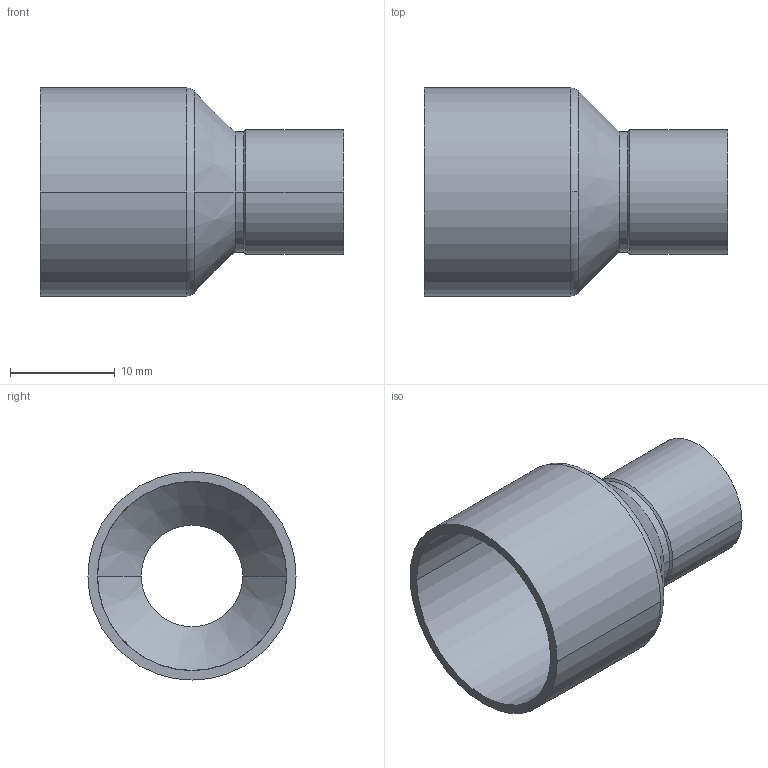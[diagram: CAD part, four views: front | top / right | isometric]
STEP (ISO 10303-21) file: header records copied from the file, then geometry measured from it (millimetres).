
FILE_DESCRIPTION((''),'2;1');
FILE_NAME('G:\Technics\CAD\Bauteile\Serie 15240\152401810.stp','2005-10-21T12:51:05',('boden'),(''),'Autodesk Inventor 8','Autodesk Inventor 8','');
FILE_SCHEMA(('AUTOMOTIVE_DESIGN { 1 0 10303 214 1 1 1 1 }'));
Length unit declared in the file: millimetre
Products named in the file (1): 152401810
Bounding box: 29 x 19.91 x 19.91 mm (x, y, z)
Volume: 1342.3 mm3; surface area: 3067.7 mm2
Topology: 1 solids, 1 shells, 26 faces, 60 edges, 36 vertices
Faces by surface type: cylinder 12, cone 8, torus 2, bspline 2, plane 2
Entity records: 855 total; most frequent: CARTESIAN_POINT 211, DIRECTION 150, ORIENTED_EDGE 120, AXIS2_PLACEMENT_3D 65, EDGE_CURVE 60, CIRCLE 40, VERTEX_POINT 36, EDGE_LOOP 28
